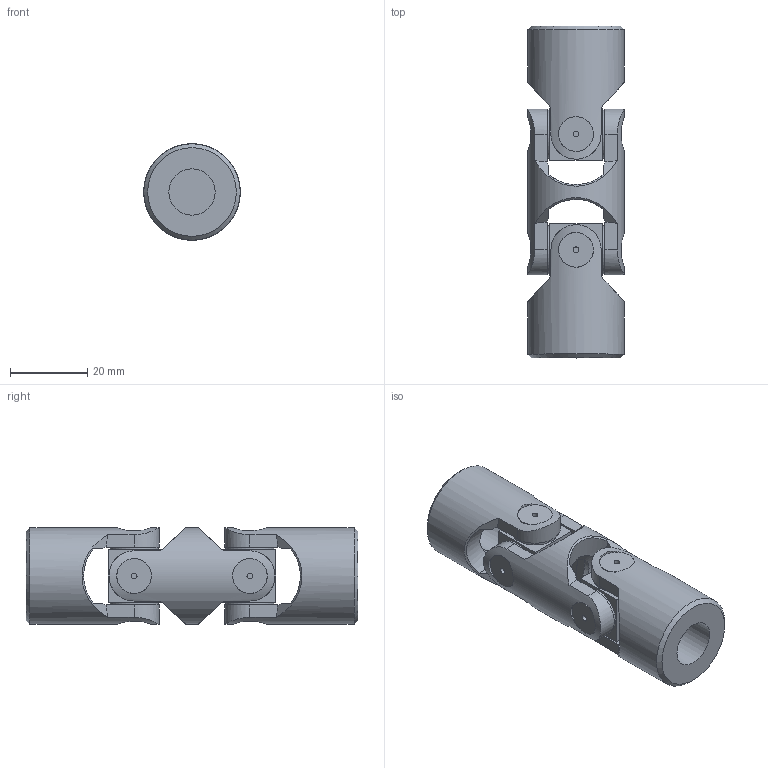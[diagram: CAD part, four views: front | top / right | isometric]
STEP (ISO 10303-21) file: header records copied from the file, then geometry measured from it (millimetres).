
FILE_DESCRIPTION(/* description */ (''),/* implementation_level */ '2;1');
FILE_NAME(/* name */ '\\SRV2016\Societa\Stefano\Disegni 3D\00Catalogo 3D\02Doppi GD-GBD\SG0D1200.stp',/* time_stamp */ '2021-11-22T17:13:23+01:00',/* author */ ('acquisti'),/* organization */ (''),/* preprocessor_version */ 'ST-DEVELOPER v15.6',/* originating_system */ 'Autodesk Inventor 2015',/* authorisation */ '');
FILE_SCHEMA (('AUTOMOTIVE_DESIGN { 1 0 10303 214 3 1 1 }'));
Length unit declared in the file: millimetre
Products named in the file (4): 04G MOD; 04G SFE; 04G MOS; Ø25_04GD-00_SG0D1200
Assembly tree (5 placements, depth 2):
  Ø25_04GD-00_SG0D1200
    04G MOD
    04G SFE  x2
    04G MOS  x2
Bounding box: 25 x 86 x 25 mm (x, y, z)
Volume: 27745.1 mm3; surface area: 13541.3 mm2
Topology: 5 solids, 5 shells, 161 faces, 375 edges, 244 vertices
Faces by surface type: plane 70, cylinder 65, cone 22, torus 4
Full cylindrical faces by diameter (mm): 1.5 x8, 12 x2, 12.5 x8, 13 x4, 25 x3
Entity records: 3760 total; most frequent: CARTESIAN_POINT 1316, ORIENTED_EDGE 482, DIRECTION 466, EDGE_CURVE 241, AXIS2_PLACEMENT_3D 209, VERTEX_POINT 171, EDGE_LOOP 152, FACE_OUTER_BOUND 112
